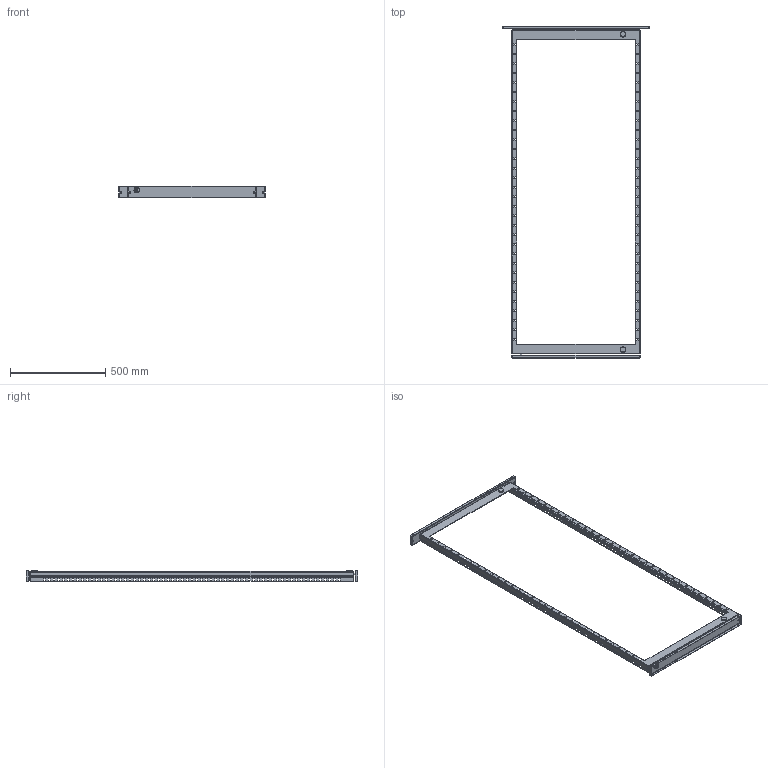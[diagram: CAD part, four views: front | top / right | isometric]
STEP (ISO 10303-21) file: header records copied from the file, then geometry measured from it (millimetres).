
FILE_DESCRIPTION (( 'STEP AP203' ), '1' );
FILE_NAME ('MC 180.80 R Ðàìà ìîäóëüíàÿ ïîâîðîòíàÿ.STEP', '2013-01-10T15:12:18', ( 'System' ), ( '' ), 'SwSTEP 2.0', 'SolidWorks 2012', '' );
FILE_SCHEMA (( 'CONFIG_CONTROL_DESIGN' ));
Length unit declared in the file: millimetre
Products named in the file (4): MC 60 R 00.001 Áàëêà íèæíÿÿ_MC 80 R; MC 180.80 R Ðàìà ìîäóëüíàÿ ïîâîðîòíàÿ; MC 180.60 R Ðàìà ìîäóëüíàÿ_MC 180.80 R; MC 60 R 00.01 Áàëêà âåðõíÿÿ_MC 80 R
Assembly tree (3 placements, depth 2):
  MC 180.80 R Ðàìà ìîäóëüíàÿ ïîâîðîòíàÿ
    MC 180.60 R Ðàìà ìîäóëüíàÿ_MC 180.80 R
    MC 60 R 00.01 Áàëêà âåðõíÿÿ_MC 80 R
    MC 60 R 00.001 Áàëêà íèæíÿÿ_MC 80 R
Bounding box: 771.5 x 1744.7 x 60 mm (x, y, z)
Volume: 1077677.8 mm3; surface area: 1088170.7 mm2
Topology: 3 solids, 3 shells, 960 faces, 2742 edges, 1764 vertices
Faces by surface type: plane 811, cylinder 97, sphere 32, cone 12, torus 8
Entity records: 31642 total; most frequent: CARTESIAN_POINT 5472, ORIENTED_EDGE 5420, DIRECTION 4846, EDGE_CURVE 2710, VECTOR 2498, LINE 2498, VERTEX_POINT 1764, EDGE_LOOP 1362
